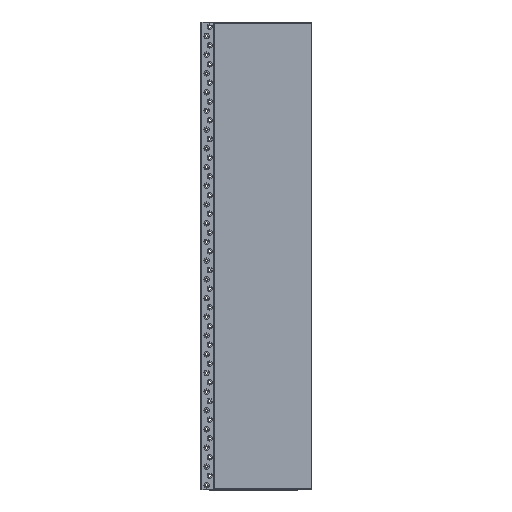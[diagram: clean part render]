
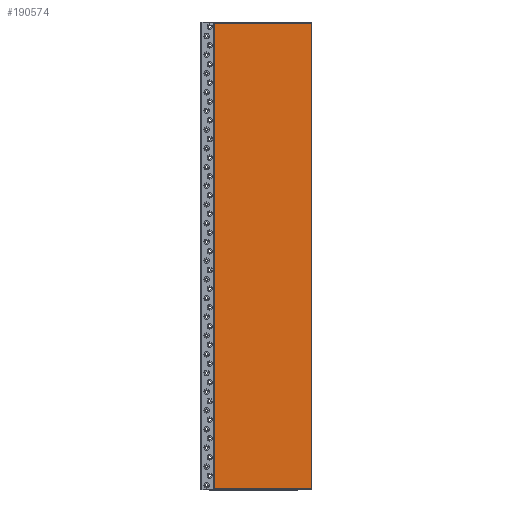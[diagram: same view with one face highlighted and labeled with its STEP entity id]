
A CAD part, top view. The second image highlights one B-rep face of the part: STEP entity #190574.
In plain terms, the highlighted planar face has unit normal (0, 0, 1).
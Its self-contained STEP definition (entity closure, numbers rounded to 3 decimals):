
#190260 = VERTEX_POINT('',#190261);
#190261 = CARTESIAN_POINT('',(13612.391,3.,
    0.));
#190268 = PLANE('',#190269);
#190269 = AXIS2_PLACEMENT_3D('',#190270,#190271,#190272);
#190270 = CARTESIAN_POINT('',(13612.391,3.,
    -25.));
#190271 = DIRECTION('',(0.,1.,0.));
#190272 = DIRECTION('',(1.,0.,0.));
#190280 = PLANE('',#190281);
#190281 = AXIS2_PLACEMENT_3D('',#190282,#190283,#190284);
#190282 = CARTESIAN_POINT('',(13612.391,997.,
    -25.));
#190283 = DIRECTION('',(1.,0.,0.));
#190284 = DIRECTION('',(0.,-1.,0.));
#190292 = EDGE_CURVE('',#190260,#190293,#190295,.T.);
#190293 = VERTEX_POINT('',#190294);
#190294 = CARTESIAN_POINT('',(13819.891,3.,
    0.));
#190295 = SURFACE_CURVE('',#190296,(#190300,#190307),.PCURVE_S1.);
#190296 = LINE('',#190297,#190298);
#190297 = CARTESIAN_POINT('',(13612.391,3.,
    0.));
#190298 = VECTOR('',#190299,1.);
#190299 = DIRECTION('',(1.,0.,0.));
#190300 = PCURVE('',#190268,#190301);
#190301 = DEFINITIONAL_REPRESENTATION('',(#190302),#190306);
#190302 = LINE('',#190303,#190304);
#190303 = CARTESIAN_POINT('',(0.,-25.));
#190304 = VECTOR('',#190305,1.);
#190305 = DIRECTION('',(1.,0.));
#190306 = ( GEOMETRIC_REPRESENTATION_CONTEXT(2) 
PARAMETRIC_REPRESENTATION_CONTEXT() REPRESENTATION_CONTEXT('2D SPACE',''
  ) );
#190307 = PCURVE('',#190308,#190313);
#190308 = PLANE('',#190309);
#190309 = AXIS2_PLACEMENT_3D('',#190310,#190311,#190312);
#190310 = CARTESIAN_POINT('',(13716.141,500.,
    0.));
#190311 = DIRECTION('',(0.,0.,1.));
#190312 = DIRECTION('',(1.,0.,0.));
#190313 = DEFINITIONAL_REPRESENTATION('',(#190314),#190318);
#190314 = LINE('',#190315,#190316);
#190315 = CARTESIAN_POINT('',(-103.75,-497.));
#190316 = VECTOR('',#190317,1.);
#190317 = DIRECTION('',(1.,0.));
#190318 = ( GEOMETRIC_REPRESENTATION_CONTEXT(2) 
PARAMETRIC_REPRESENTATION_CONTEXT() REPRESENTATION_CONTEXT('2D SPACE',''
  ) );
#190336 = PLANE('',#190337);
#190337 = AXIS2_PLACEMENT_3D('',#190338,#190339,#190340);
#190338 = CARTESIAN_POINT('',(13819.891,3.,
    -25.));
#190339 = DIRECTION('',(-1.,0.,0.));
#190340 = DIRECTION('',(0.,1.,0.));
#190378 = EDGE_CURVE('',#190293,#190379,#190381,.T.);
#190379 = VERTEX_POINT('',#190380);
#190380 = CARTESIAN_POINT('',(13819.891,997.,
    0.));
#190381 = SURFACE_CURVE('',#190382,(#190386,#190393),.PCURVE_S1.);
#190382 = LINE('',#190383,#190384);
#190383 = CARTESIAN_POINT('',(13819.891,3.,
    0.));
#190384 = VECTOR('',#190385,1.);
#190385 = DIRECTION('',(0.,1.,0.));
#190386 = PCURVE('',#190336,#190387);
#190387 = DEFINITIONAL_REPRESENTATION('',(#190388),#190392);
#190388 = LINE('',#190389,#190390);
#190389 = CARTESIAN_POINT('',(0.,-25.));
#190390 = VECTOR('',#190391,1.);
#190391 = DIRECTION('',(1.,0.));
#190392 = ( GEOMETRIC_REPRESENTATION_CONTEXT(2) 
PARAMETRIC_REPRESENTATION_CONTEXT() REPRESENTATION_CONTEXT('2D SPACE',''
  ) );
#190393 = PCURVE('',#190308,#190394);
#190394 = DEFINITIONAL_REPRESENTATION('',(#190395),#190399);
#190395 = LINE('',#190396,#190397);
#190396 = CARTESIAN_POINT('',(103.75,-497.));
#190397 = VECTOR('',#190398,1.);
#190398 = DIRECTION('',(0.,1.));
#190399 = ( GEOMETRIC_REPRESENTATION_CONTEXT(2) 
PARAMETRIC_REPRESENTATION_CONTEXT() REPRESENTATION_CONTEXT('2D SPACE',''
  ) );
#190417 = PLANE('',#190418);
#190418 = AXIS2_PLACEMENT_3D('',#190419,#190420,#190421);
#190419 = CARTESIAN_POINT('',(13819.891,997.,
    -25.));
#190420 = DIRECTION('',(0.,-1.,0.));
#190421 = DIRECTION('',(-1.,0.,0.));
#190454 = EDGE_CURVE('',#190379,#190455,#190457,.T.);
#190455 = VERTEX_POINT('',#190456);
#190456 = CARTESIAN_POINT('',(13612.391,997.,
    0.));
#190457 = SURFACE_CURVE('',#190458,(#190462,#190469),.PCURVE_S1.);
#190458 = LINE('',#190459,#190460);
#190459 = CARTESIAN_POINT('',(13819.891,997.,
    0.));
#190460 = VECTOR('',#190461,1.);
#190461 = DIRECTION('',(-1.,0.,0.));
#190462 = PCURVE('',#190417,#190463);
#190463 = DEFINITIONAL_REPRESENTATION('',(#190464),#190468);
#190464 = LINE('',#190465,#190466);
#190465 = CARTESIAN_POINT('',(0.,-25.));
#190466 = VECTOR('',#190467,1.);
#190467 = DIRECTION('',(1.,0.));
#190468 = ( GEOMETRIC_REPRESENTATION_CONTEXT(2) 
PARAMETRIC_REPRESENTATION_CONTEXT() REPRESENTATION_CONTEXT('2D SPACE',''
  ) );
#190469 = PCURVE('',#190308,#190470);
#190470 = DEFINITIONAL_REPRESENTATION('',(#190471),#190475);
#190471 = LINE('',#190472,#190473);
#190472 = CARTESIAN_POINT('',(103.75,497.));
#190473 = VECTOR('',#190474,1.);
#190474 = DIRECTION('',(-1.,0.));
#190475 = ( GEOMETRIC_REPRESENTATION_CONTEXT(2) 
PARAMETRIC_REPRESENTATION_CONTEXT() REPRESENTATION_CONTEXT('2D SPACE',''
  ) );
#190525 = EDGE_CURVE('',#190455,#190260,#190526,.T.);
#190526 = SURFACE_CURVE('',#190527,(#190531,#190538),.PCURVE_S1.);
#190527 = LINE('',#190528,#190529);
#190528 = CARTESIAN_POINT('',(13612.391,997.,
    0.));
#190529 = VECTOR('',#190530,1.);
#190530 = DIRECTION('',(0.,-1.,0.));
#190531 = PCURVE('',#190280,#190532);
#190532 = DEFINITIONAL_REPRESENTATION('',(#190533),#190537);
#190533 = LINE('',#190534,#190535);
#190534 = CARTESIAN_POINT('',(0.,-25.));
#190535 = VECTOR('',#190536,1.);
#190536 = DIRECTION('',(1.,0.));
#190537 = ( GEOMETRIC_REPRESENTATION_CONTEXT(2) 
PARAMETRIC_REPRESENTATION_CONTEXT() REPRESENTATION_CONTEXT('2D SPACE',''
  ) );
#190538 = PCURVE('',#190308,#190539);
#190539 = DEFINITIONAL_REPRESENTATION('',(#190540),#190544);
#190540 = LINE('',#190541,#190542);
#190541 = CARTESIAN_POINT('',(-103.75,497.));
#190542 = VECTOR('',#190543,1.);
#190543 = DIRECTION('',(0.,-1.));
#190544 = ( GEOMETRIC_REPRESENTATION_CONTEXT(2) 
PARAMETRIC_REPRESENTATION_CONTEXT() REPRESENTATION_CONTEXT('2D SPACE',''
  ) );
#190574 = ADVANCED_FACE('',(#190575),#190308,.T.);
#190575 = FACE_BOUND('',#190576,.T.);
#190576 = EDGE_LOOP('',(#190577,#190578,#190579,#190580));
#190577 = ORIENTED_EDGE('',*,*,#190292,.T.);
#190578 = ORIENTED_EDGE('',*,*,#190378,.T.);
#190579 = ORIENTED_EDGE('',*,*,#190454,.T.);
#190580 = ORIENTED_EDGE('',*,*,#190525,.T.);
